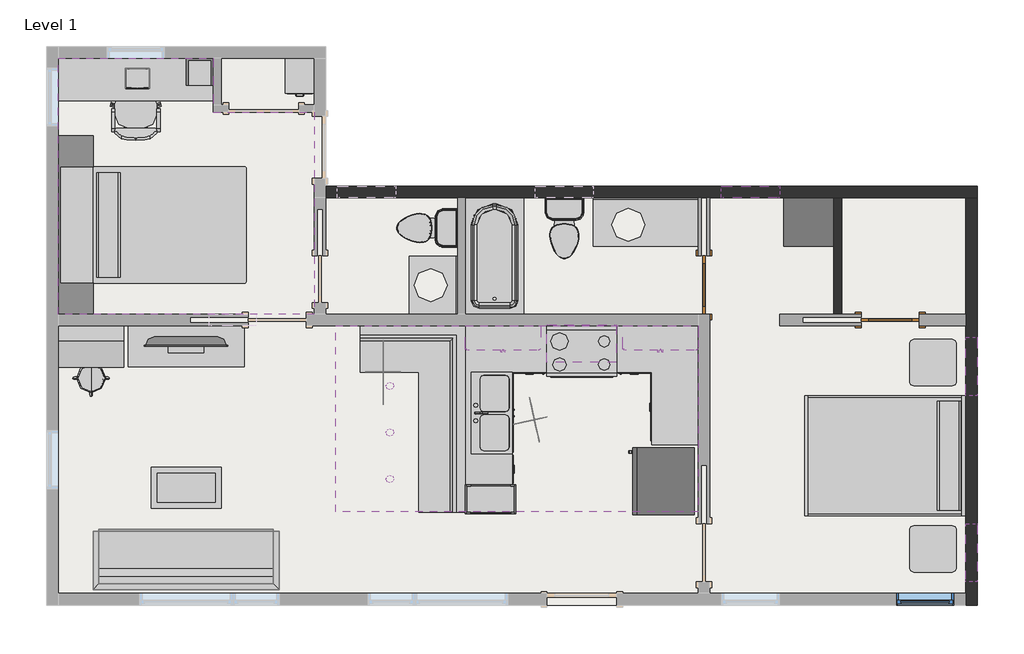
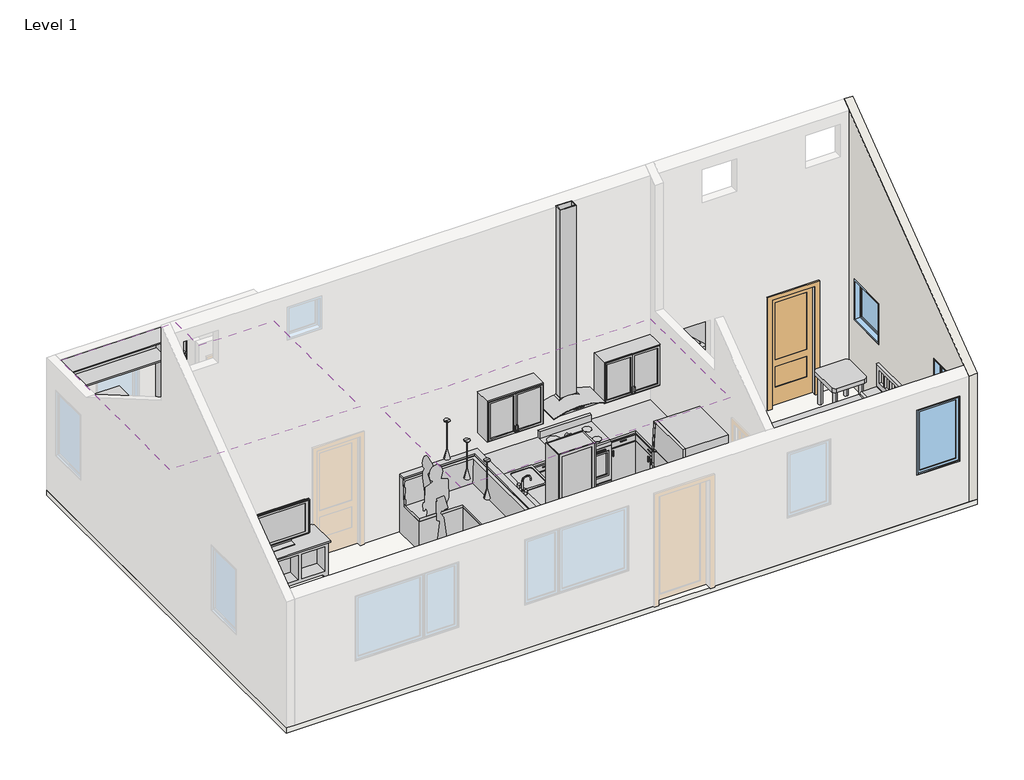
# One storey, part 2 of 2: 27 furniture elements, 6 proxies, 5 flow terminals, 4 windows, 3 light fixtures, 3 walls, 2 coverings, 2 doors, 1 slab.
"""IFC4 building model written with IfcOpenShell, lengths in millimetres."""

from ifc_helpers import new_model, si_unit, frame, origin, origin_with_axes, place, context, project, spatial, polyline, outline, extrude, faceted_brep, transform, mapped, element, save
from components import entourage_4c8cfd20, exhausthood_3375_canopy_range_hood_4b5b32bf, rpc_female_69e001fa, rpc_male_2293c1c2, proxy_28991e61, proxy_93150df1, door_91ac008a, door_421592a3, flow_terminal_a53be723, flow_terminal_9945266a, toilet_domestic_3d_toilet_domestic_3d_f7549cf7, toilet_domestic_3d_toilet_domestic_3d_183bbd19, tub_rectangular_3d_tub_rectangular_3d_d66eddaa, furniture_cfd128db, furniture_6ace90bf, furniture_07bc9410, furniture_ae41e898, furniture_048c9636, furniture_ab3c6687, furniture_b202a70b, furniture_bb55ed6b, chair_executive_chair_executive_8d69e98c, coffee_table_living_room_coffee_table_living_room_ddab133e, couch05_couch05_e9f14d2e, furniture_d6879d98, furniture_905b49e9, dining_booth_l_shape_dining_booth_l_shape_abab4fc1, furniture_b95f40c9, lab_stool_lab_stool_9134c41a, office_built_in_office_built_in_b2bebc89, pantry_cabinet_pantry_cabinet_f1bca42e, furniture_7a3aaa4f, tv_stand_tv_stand_2ccc90d3, furniture_60c3fc03, furniture_249aa2ce, furniture_7e61e6c6, furniture_1a92acab, furniture_0abe6de7, pendant_light_cone_60w_incandescent_225a0564, window_e76804c0, window_def9d500, window_7c4138b5

model = new_model("IFC4")

# Units and contexts
model_context = context("Model", 3, world=origin())
ifc_project = project(units=[si_unit("LENGTHUNIT", "METRE", prefix="MILLI")], contexts=[model_context])

# Site, building, storey
site = spatial("IfcSite", under=ifc_project)
building = spatial("IfcBuilding", under=site)
storey = spatial("IfcBuildingStorey", under=building, Name="Level 1", Elevation=0.0)

# Proxies
placement = place(None, origin())
entourage_shape = entourage_4c8cfd20(model_context)
element("IfcBuildingElementProxy", 1, Name="RPC Notebook Computer : RPC Notebook Computer", ObjectType="RPC Notebook Computer : RPC Notebook Computer", at=placement, inside=storey, context=model_context, shape_type="MappedRepresentation", body=[
    mapped(entourage_shape, transform((-9683.2370155, -1097.0021683, 762.0), x_axis=(1.0, 0.0, 0.0), y_axis=(0.0, 1.0, 0.0), z_axis=(0.0, 0.0, 1.0))),
])
exhausthood_3375_canopy_range_hood_shape = exhausthood_3375_canopy_range_hood_4b5b32bf(model_context)
element("IfcBuildingElementProxy", 2, Name="ExhaustHood_3375 : Canopy Range Hood", ObjectType="ExhaustHood_3375 : Canopy Range Hood", at=placement, inside=storey, context=model_context, shape_type="MappedRepresentation", body=[
    mapped(exhausthood_3375_canopy_range_hood_shape, transform((-3864.0585901, -4360.9021683, 0.0), x_axis=(-1.0, 0.0, 0.0), y_axis=(0.0, -1.0, 0.0), z_axis=(0.0, 0.0, 1.0))),
])
rpc_female_shape = rpc_female_69e001fa(model_context)
element("IfcBuildingElementProxy", 3, Name="RPC Female : Cynthia", ObjectType="RPC Female : Cynthia", at=placement, inside=storey, context=model_context, shape_type="MappedRepresentation", body=[
    mapped(rpc_female_shape, transform((-6465.7533325, -5135.6021683, 0.0), x_axis=(1.0, 0.0, 0.0), y_axis=(0.0, 1.0, 0.0), z_axis=(0.0, 0.0, 1.0))),
])
rpc_male_shape = rpc_male_2293c1c2(model_context)
element("IfcBuildingElementProxy", 4, Name="RPC Male : Alex", ObjectType="RPC Male : Alex", at=placement, inside=storey, context=model_context, shape_type="MappedRepresentation", body=[
    mapped(rpc_male_shape, transform((-4536.7482056, -5614.7941446, 0.0), x_axis=(0.21404454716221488, -0.9768239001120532, 0.0), y_axis=(0.9768239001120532, 0.21404454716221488, 0.0), z_axis=(0.0, 0.0, 1.0))),
])
proxy_shape = proxy_28991e61(model_context)
element("IfcBuildingElementProxy", 5, Name="Range : 30\" x 26\"", ObjectType="Range : 30\" x 26\"", at=placement, inside=storey, context=model_context, shape_type="MappedRepresentation", body=[
    mapped(proxy_shape, transform((-4319.6710901, -5034.0021683, 0.0), x_axis=(1.0, 0.0, 0.0), y_axis=(0.0, 1.0, 0.0), z_axis=(0.0, 0.0, 1.0))),
])
proxy_2_shape = proxy_93150df1(model_context)
element("IfcBuildingElementProxy", 6, Name="Refrigerator : 35\" x 32\" LH", ObjectType="Refrigerator : 35\" x 32\" LH", at=placement, inside=storey, context=model_context, shape_type="MappedRepresentation", body=[
    mapped(proxy_2_shape, transform((-2777.8200616, -6407.2849026, 0.0), x_axis=(0.0, -1.0000000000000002, 0.0), y_axis=(1.0000000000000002, 0.0, 0.0), z_axis=(0.0, 0.0, 1.0))),
])

# Coverings
element("IfcCovering", 7, ObjectType="GWB", at=placement, inside=storey, context=model_context, shape_type="SweptSolid", body=[
    extrude(outline(polyline([(-2338.4710901, -6812.0021683), (-7088.2710901, -6812.0021683), (-7088.2710901, -4373.6021683), (-2338.4710901, -4373.6021683), (-2338.4710901, -6812.0021683)])), frame((0.0, 0.0, 2425.7), z_axis=(0.0, 0.0, 1.0), x_axis=(1.0, 0.0, 0.0)), (0.0, 0.0, 1.0), 12.7),
])
element("IfcCovering", 8, ObjectType="GWB", at=placement, inside=storey, context=model_context, shape_type="SweptSolid", body=[
    extrude(outline(polyline([(-7367.6710901, -4221.2021683), (-10720.4710901, -4221.2021683), (-10720.4710901, -868.4021683), (-8688.4710901, -868.4021683), (-8688.4710901, -1579.6021683), (-7367.6710901, -1579.6021683), (-7367.6710901, -4221.2021683)])), frame((0.0, 0.0, 2454.275), z_axis=(0.0, 0.0, 1.0), x_axis=(1.0, 0.0, 0.0)), (0.0, 0.0, 1.0), 12.7),
])

# Doors
door_shape = door_91ac008a(model_context)
element("IfcDoor", 9, ObjectType="Single-Pocket Door-Two Panel : 30\" x 80\"", at=placement, inside=storey, context=model_context, shape_type="MappedRepresentation", body=[
    mapped(door_shape, transform((176.1289099, -4297.4021683, 0.0), x_axis=(1.0, 0.0, 0.0), y_axis=(0.0, 1.0, 0.0), z_axis=(0.0, 0.0, 1.0))),
])
door_2_shape = door_421592a3(model_context)
element("IfcDoor", 10, ObjectType="Single-Pocket Door-Two Panel : 30\" x 80\"", at=placement, inside=storey, context=model_context, shape_type="MappedRepresentation", body=[
    mapped(door_2_shape, transform((-2262.2710901, -3840.2021683, 0.0), x_axis=(0.0, -1.0, 0.0), y_axis=(1.0, 0.0, 0.0), z_axis=(0.0, 0.0, 1.0))),
])

# Flow terminals
flow_terminal_shape = flow_terminal_a53be723(model_context)
element("IfcFlowTerminal", 11, ObjectType="Sink Kitchen-Double : 42\" x 21\"", at=placement, inside=storey, context=model_context, shape_type="MappedRepresentation", body=[
    mapped(flow_terminal_shape, transform((-5041.225689, -5532.2914088, 0.0), x_axis=(0.0, 1.0000000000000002, 0.0), y_axis=(-1.0000000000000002, 0.0, 0.0), z_axis=(0.0, 0.0, 1.0))),
])
flow_terminal_2_shape = flow_terminal_9945266a(model_context)
element("IfcFlowTerminal", 12, ObjectType="Stacked Washer and Dryer : 26\"x25\" - Private", at=placement, inside=storey, context=model_context, shape_type="MappedRepresentation", body=[
    mapped(flow_terminal_2_shape, transform((-560.4710901, -3014.7021683, 0.0), x_axis=(-1.0000000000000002, 0.0, 0.0), y_axis=(0.0, -1.0000000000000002, 0.0), z_axis=(0.0, 0.0, 1.0))),
])
toilet_domestic_3d_toilet_domestic_3d_shape = toilet_domestic_3d_toilet_domestic_3d_f7549cf7(model_context)
toilet_domestic_3d_toilet_domestic_3d_2_shape = toilet_domestic_3d_toilet_domestic_3d_183bbd19(model_context)
element("IfcFlowTerminal", 13, ObjectType="Toilet-Domestic-3D : Toilet-Domestic-3D", at=placement, inside=storey, context=model_context, shape_type="MappedRepresentation", body=[
    mapped(toilet_domestic_3d_toilet_domestic_3d_shape, transform((-5982.7671175, -3092.8522444, 19.05), x_axis=(0.0, -1.0, 0.0), y_axis=(1.0, 0.0, 0.0), z_axis=(0.0, 0.0, 1.0))),
    mapped(toilet_domestic_3d_toilet_domestic_3d_2_shape, transform((-5982.7671175, -3092.8522444, 19.05), x_axis=(0.0, -1.0, 0.0), y_axis=(1.0, 0.0, 0.0), z_axis=(0.0, 0.0, 1.0))),
])
element("IfcFlowTerminal", 14, ObjectType="Toilet-Domestic-3D : Toilet-Domestic-3D", at=placement, inside=storey, context=model_context, shape_type="MappedRepresentation", body=[
    mapped(toilet_domestic_3d_toilet_domestic_3d_shape, transform((-4091.0710901, -3191.8981956, 0.0), x_axis=(1.0, 0.0, 0.0), y_axis=(0.0, 1.0, 0.0), z_axis=(0.0, 0.0, 1.0))),
    mapped(toilet_domestic_3d_toilet_domestic_3d_2_shape, transform((-4091.0710901, -3191.8981956, 0.0), x_axis=(1.0, 0.0, 0.0), y_axis=(0.0, 1.0, 0.0), z_axis=(0.0, 0.0, 1.0))),
])
tub_rectangular_3d_tub_rectangular_3d_shape = tub_rectangular_3d_tub_rectangular_3d_d66eddaa(model_context)
element("IfcFlowTerminal", 15, ObjectType="Tub-Rectangular-3D : Tub-Rectangular-3D", at=placement, inside=storey, context=model_context, shape_type="MappedRepresentation", body=[
    mapped(tub_rectangular_3d_tub_rectangular_3d_shape, transform((-5437.2710901, -3110.5991996, 0.0), x_axis=(0.0, 1.0, 0.0), y_axis=(-1.0, 0.0, 0.0), z_axis=(0.0, 0.0, 1.0))),
])

# Furniture
furniture_shape = furniture_cfd128db(model_context)
element("IfcFurniture", 16, ObjectType="Rhonda's Desk : Rhonda's Desk", at=placement, inside=storey, context=model_context, shape_type="MappedRepresentation", body=[
    mapped(furniture_shape, transform((-10288.6710901, -4373.6021683, 0.0), x_axis=(1.0, 0.0, 0.0), y_axis=(0.0, 1.0, 0.0), z_axis=(0.0, 0.0, 1.0))),
])
furniture_2_shape = furniture_6ace90bf(model_context)
element("IfcFurniture", 17, ObjectType="Base Cabinet-Single Door & Drawer : 18\"", at=placement, inside=storey, context=model_context, shape_type="MappedRepresentation", body=[
    mapped(furniture_2_shape, transform((-4567.008795, -4373.6021683, 0.0), x_axis=(1.0, 0.0, 0.0), y_axis=(0.0, 1.0, 0.0), z_axis=(0.0, 0.0, 1.0))),
])
furniture_3_shape = furniture_07bc9410(model_context)
element("IfcFurniture", 18, ObjectType="Base Cabinet-Single Door & Drawer : 18\"", at=placement, inside=storey, context=model_context, shape_type="MappedRepresentation", body=[
    mapped(furniture_3_shape, transform((-3157.9333852, -4373.6021683, 0.0), x_axis=(-1.0, 0.0, 0.0), y_axis=(0.0, -1.0, 0.0), z_axis=(0.0, 0.0, 1.0))),
])
furniture_4_shape = furniture_ae41e898(model_context)
element("IfcFurniture", 19, ObjectType="Base Cabinet-Double Door & 1 Drawer : 36\"", at=placement, inside=storey, context=model_context, shape_type="MappedRepresentation", body=[
    mapped(furniture_4_shape, transform((-2338.4710901, -5421.6644633, 0.0), x_axis=(0.0, -1.0000000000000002, 0.0), y_axis=(1.0000000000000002, 0.0, 0.0), z_axis=(0.0, 0.0, 1.0))),
])
furniture_5_shape = furniture_048c9636(model_context)
element("IfcFurniture", 20, ObjectType="Base Cabinet-4 Drawers : 16\"", at=placement, inside=storey, context=model_context, shape_type="MappedRepresentation", body=[
    mapped(furniture_5_shape, transform((-5380.1210901, -6271.9398732, 0.0), x_axis=(0.0, 1.0000000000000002, 0.0), y_axis=(-1.0000000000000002, 0.0, 0.0), z_axis=(0.0, 0.0, 1.0))),
])
furniture_6_shape = furniture_ab3c6687(model_context)
element("IfcFurniture", 21, ObjectType="Base Cabinet-Double Door Sink Unit : 42\"", at=placement, inside=storey, context=model_context, shape_type="MappedRepresentation", body=[
    mapped(furniture_6_shape, transform((-5380.1210901, -5535.3398732, 0.0), x_axis=(0.0, 1.0000000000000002, 0.0), y_axis=(-1.0000000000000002, 0.0, 0.0), z_axis=(0.0, 0.0, 1.0))),
])
furniture_7_shape = furniture_b202a70b(model_context)
element("IfcFurniture", 22, ObjectType="Bed-Shaker : Queen 62\" x 83\"", at=placement, inside=storey, context=model_context, shape_type="MappedRepresentation", body=[
    mapped(furniture_7_shape, transform((1166.7289099, -6056.3521683, 0.0), x_axis=(0.0, 1.0, 0.0), y_axis=(-1.0000000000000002, 0.0, 0.0), z_axis=(0.0, 0.0, 1.0000000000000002))),
])
furniture_8_shape = furniture_bb55ed6b(model_context)
element("IfcFurniture", 23, ObjectType="Cabinet-File 2 Drawer : 15\" x 18\"", at=placement, inside=storey, context=model_context, shape_type="MappedRepresentation", body=[
    mapped(furniture_8_shape, transform((-10402.0746431, -954.8678681, 0.0), x_axis=(1.0, 0.0, 0.0), y_axis=(0.0, 1.0, 0.0), z_axis=(0.0, 0.0, 1.0))),
])
element("IfcFurniture", 24, ObjectType="Cabinet-File 2 Drawer : 15\" x 18\"", at=placement, inside=storey, context=model_context, shape_type="MappedRepresentation", body=[
    mapped(furniture_8_shape, transform((-7430.2746431, -954.8678681, 0.0), x_axis=(1.0, 0.0, 0.0), y_axis=(0.0, 1.0, 0.0), z_axis=(0.0, 0.0, 1.0))),
])
chair_executive_chair_executive_shape = chair_executive_chair_executive_8d69e98c(model_context)
element("IfcFurniture", 25, ObjectType="Chair-Executive : Chair-Executive", at=placement, inside=storey, context=model_context, shape_type="MappedRepresentation", body=[
    mapped(chair_executive_chair_executive_shape, transform((-9845.4619098, -1598.5480699, 0.0), x_axis=(1.0, 0.0, 0.0), y_axis=(0.0, 1.0, 0.0), z_axis=(0.0, 0.0, 1.0))),
])
coffee_table_living_room_coffee_table_living_room_shape = coffee_table_living_room_coffee_table_living_room_ddab133e(model_context)
element("IfcFurniture", 26, ObjectType="Coffee_Table-Living_Room : Coffee_Table-Living_Room", at=placement, inside=storey, context=model_context, shape_type="MappedRepresentation", body=[
    mapped(coffee_table_living_room_coffee_table_living_room_shape, transform((-9044.0710901, -6227.8021683, 0.0), x_axis=(1.0, 0.0, 0.0), y_axis=(0.0, 1.0, 0.0), z_axis=(0.0, 0.0, 1.0))),
])
couch05_couch05_shape = couch05_couch05_e9f14d2e(model_context)
element("IfcFurniture", 27, ObjectType="Couch05 : Couch05", at=placement, inside=storey, context=model_context, shape_type="MappedRepresentation", body=[
    mapped(couch05_couch05_shape, transform((-9044.0710901, -7828.0021683, 0.0), x_axis=(0.0, 1.0000000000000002, 0.0), y_axis=(-1.0000000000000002, 0.0, 0.0), z_axis=(0.0, 0.0, 1.0))),
])
furniture_9_shape = furniture_d6879d98(model_context)
element("IfcFurniture", 28, ObjectType="Counter_Top-L Shaped_No_Splash : 24\" Depth", at=placement, inside=storey, context=model_context, shape_type="MappedRepresentation", body=[
    mapped(furniture_9_shape, transform((-2338.4710901, -5574.0644633, 0.0), x_axis=(0.0, -1.0000000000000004, 0.0), y_axis=(1.0000000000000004, 0.0, 0.0), z_axis=(0.0, 0.0, 1.0))),
])
furniture_10_shape = furniture_905b49e9(model_context)
element("IfcFurniture", 29, ObjectType="Counter_Top-L Shaped_No_Splash : 24\" Depth", at=placement, inside=storey, context=model_context, shape_type="MappedRepresentation", body=[
    mapped(furniture_10_shape, transform((-5386.4710901, -5574.0644633, 0.0), x_axis=(0.0, -1.0000000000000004, 0.0), y_axis=(1.0000000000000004, 0.0, 0.0), z_axis=(0.0, 0.0, 1.0))),
])
dining_booth_l_shape_dining_booth_l_shape_shape = dining_booth_l_shape_dining_booth_l_shape_abab4fc1(model_context)
element("IfcFurniture", 30, ObjectType="Dining_Booth-L_Shape : Dining_Booth-L_Shape", at=placement, inside=storey, context=model_context, shape_type="MappedRepresentation", body=[
    mapped(dining_booth_l_shape_dining_booth_l_shape_shape, transform((-5386.4710901, -4373.6021683, 0.0), x_axis=(1.0, 0.0, 0.0), y_axis=(0.0, 1.0, 0.0), z_axis=(0.0, 0.0, 1.0))),
])
furniture_11_shape = furniture_b95f40c9(model_context)
element("IfcFurniture", 31, ObjectType="Bed-Murphy_Standard : Double 54\" x 75\"", at=placement, inside=storey, context=model_context, shape_type="MappedRepresentation", body=[
    mapped(furniture_11_shape, transform((-9305.5661721, -3324.2906929, 0.0), x_axis=(0.0, 1.0, 0.0), y_axis=(-1.0, 0.0, 0.0), z_axis=(0.0, 0.0, 1.0))),
])
lab_stool_lab_stool_shape = lab_stool_lab_stool_9134c41a(model_context)
element("IfcFurniture", 32, ObjectType="Lab Stool : Lab Stool", at=placement, inside=storey, context=model_context, shape_type="MappedRepresentation", body=[
    mapped(lab_stool_lab_stool_shape, transform((-10288.6710901, -5059.4021683, 0.0), x_axis=(1.0, 0.0, 0.0), y_axis=(0.0, 1.0, 0.0), z_axis=(0.0, 0.0, 1.0))),
])
office_built_in_office_built_in_shape = office_built_in_office_built_in_b2bebc89(model_context)
element("IfcFurniture", 33, ObjectType="Office-Built_In : Office-Built_In", at=placement, inside=storey, context=model_context, shape_type="MappedRepresentation", body=[
    mapped(office_built_in_office_built_in_shape, transform((-10129.608795, -817.6021683, 0.0), x_axis=(1.0, 0.0, 0.0), y_axis=(0.0, 1.0, 0.0), z_axis=(0.0, 0.0, 1.0))),
])
pantry_cabinet_pantry_cabinet_shape = pantry_cabinet_pantry_cabinet_f1bca42e(model_context)
element("IfcFurniture", 34, ObjectType="Pantry_Cabinet : Pantry_Cabinet", at=placement, inside=storey, context=model_context, shape_type="MappedRepresentation", body=[
    mapped(pantry_cabinet_pantry_cabinet_shape, transform((-4795.608795, -6202.4021683, 0.0), x_axis=(1.0, 0.0, 0.0), y_axis=(0.0, 1.0, 0.0), z_axis=(0.0, 0.0, 1.0))),
])
furniture_12_shape = furniture_7a3aaa4f(model_context)
element("IfcFurniture", 35, ObjectType="TV - Flat Screen : 42\"", at=placement, inside=storey, context=model_context, shape_type="MappedRepresentation", body=[
    mapped(furniture_12_shape, transform((-9040.126576, -4573.8407919, 685.8), x_axis=(1.0000000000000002, 0.0, 0.0), y_axis=(0.0, 1.0000000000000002, 0.0), z_axis=(0.0, 0.0, 1.0))),
])
tv_stand_tv_stand_shape = tv_stand_tv_stand_2ccc90d3(model_context)
element("IfcFurniture", 36, ObjectType="TV_Stand : TV_Stand", at=placement, inside=storey, context=model_context, shape_type="MappedRepresentation", body=[
    mapped(tv_stand_tv_stand_shape, transform((-9044.0710901, -4640.3021683, 0.0), x_axis=(1.0, 0.0, 0.0), y_axis=(0.0, 1.0, 0.0), z_axis=(0.0, 0.0, 1.0))),
])
furniture_13_shape = furniture_60c3fc03(model_context)
element("IfcFurniture", 37, ObjectType="Table-End : 24\" x 24\"", at=placement, inside=storey, context=model_context, shape_type="MappedRepresentation", body=[
    mapped(furniture_13_shape, transform((890.5039099, -6986.068538, 0.0), x_axis=(0.0, -1.0, 0.0), y_axis=(1.0000000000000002, 0.0, 0.0), z_axis=(0.0, 0.0, 1.0000000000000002))),
])
element("IfcFurniture", 38, ObjectType="Table-End : 24\" x 24\"", at=placement, inside=storey, context=model_context, shape_type="MappedRepresentation", body=[
    mapped(furniture_13_shape, transform((890.5039099, -4547.668538, 0.0), x_axis=(0.0, -1.0, 0.0), y_axis=(1.0000000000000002, 0.0, 0.0), z_axis=(0.0, 0.0, 1.0000000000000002))),
])
furniture_14_shape = furniture_249aa2ce(model_context)
element("IfcFurniture", 39, ObjectType="Upper Cabinet-Double Door w Glass-Wall : 39\"", at=placement, inside=storey, context=model_context, shape_type="MappedRepresentation", body=[
    mapped(furniture_14_shape, transform((-4864.5749273, -4297.4021683, 0.0), x_axis=(-1.0, 0.0, 0.0), y_axis=(0.0, -1.0, 0.0), z_axis=(0.0, 0.0, 1.0))),
])
furniture_15_shape = furniture_7e61e6c6(model_context)
element("IfcFurniture", 40, ObjectType="Upper Cabinet-Double Door w Glass-Wall : 39\"", at=placement, inside=storey, context=model_context, shape_type="MappedRepresentation", body=[
    mapped(furniture_15_shape, transform((-2863.5422529, -4297.4021683, 0.0), x_axis=(1.0, 0.0, 0.0), y_axis=(0.0, 1.0, 0.0), z_axis=(0.0, 0.0, 1.0))),
])
furniture_16_shape = furniture_1a92acab(model_context)
element("IfcFurniture", 41, ObjectType="Vanity Counter Top w Round Sink Hole : 24\" Depth", at=placement, inside=storey, context=model_context, shape_type="MappedRepresentation", body=[
    mapped(furniture_16_shape, transform((-5488.0710901, -2893.7398732, 25.4), x_axis=(0.0, 1.0, 0.0), y_axis=(-1.0, 0.0, 0.0), z_axis=(0.0, 0.0, 1.0))),
])
furniture_17_shape = furniture_0abe6de7(model_context)
element("IfcFurniture", 42, ObjectType="Vanity Counter Top w Round Sink Hole : 24\" Depth", at=placement, inside=storey, context=model_context, shape_type="MappedRepresentation", body=[
    mapped(furniture_17_shape, transform((-2382.608795, -2697.2021683, 0.0), x_axis=(1.0, 0.0, 0.0), y_axis=(0.0, 1.0, 0.0), z_axis=(0.0, 0.0, 1.0))),
])

# Light fixtures
pendant_light_cone_60w_incandescent_shape = pendant_light_cone_60w_incandescent_225a0564(model_context)
element("IfcLightFixture", 43, ObjectType="Pendant Light - Cone : 60W - Incandescent", at=placement, inside=storey, context=model_context, shape_type="MappedRepresentation", body=[
    mapped(pendant_light_cone_60w_incandescent_shape, transform((-6377.0710901, -5770.6021683, -12.7000062), x_axis=(1.0, 0.0, 0.0), y_axis=(0.0, 1.0, 0.0), z_axis=(0.0, 0.0, 1.0))),
])
element("IfcLightFixture", 44, ObjectType="Pendant Light - Cone : 60W - Incandescent", at=placement, inside=storey, context=model_context, shape_type="MappedRepresentation", body=[
    mapped(pendant_light_cone_60w_incandescent_shape, transform((-6377.0710901, -5161.0021683, -12.7000062), x_axis=(1.0, 0.0, 0.0), y_axis=(0.0, 1.0, 0.0), z_axis=(0.0, 0.0, 1.0))),
])
element("IfcLightFixture", 45, ObjectType="Pendant Light - Cone : 60W - Incandescent", at=placement, inside=storey, context=model_context, shape_type="MappedRepresentation", body=[
    mapped(pendant_light_cone_60w_incandescent_shape, transform((-6377.0710901, -6380.2021683, -12.7000062), x_axis=(1.0, 0.0, 0.0), y_axis=(0.0, 1.0, 0.0), z_axis=(0.0, 0.0, 1.0))),
])

# Slab
element("IfcSlab", 46, ObjectType="Generic - 4\"", at=placement, inside=storey, context=model_context, shape_type="SweptSolid", body=[
    extrude(outline(polyline([(1319.1289099, -8031.2021683), (-10872.8710901, -8031.2021683), (-10872.8710901, -716.0021683), (-7215.2710901, -716.0021683), (-7215.2710901, -2544.8021683), (1319.1289099, -2544.8021683), (1319.1289099, -8031.2021683)])), frame((0.0, 0.0, -101.6), z_axis=(0.0, 0.0, 1.0), x_axis=(1.0, 0.0, 0.0)), (0.0, 0.0, 1.0), 101.6),
])

# Walls
element("IfcWall", 47, ObjectType="Generic - 4\"", at=placement, inside=storey, context=model_context, shape_type="SweptSolid", body=[
    extrude(outline(polyline([(-458.8710901, -2697.2021683), (-458.8710901, -4221.2021683), (-560.4710901, -4221.2021683), (-560.4710901, -2697.2021683), (-458.8710901, -2697.2021683)])), origin_with_axes(), (0.0, 0.0, 1.0), 2438.4),
])
element("IfcWall", 48, ObjectType="Generic - 6\"", at=placement, inside=storey, context=model_context, shape_type="Brep", body=[
    faceted_brep([(-7215.2710901, -2697.2021683, 0.0), (-5488.0710901, -2697.2021683, 0.0), (-5386.4710901, -2697.2021683, 0.0), (-2338.4710901, -2697.2021683, 0.0), (-2300.3710901, -2697.2021683, 0.0), (-2224.1710901, -2697.2021683, 0.0), (-2186.0710901, -2697.2021683, 0.0), (-560.4710901, -2697.2021683, 0.0), (-458.8710901, -2697.2021683, 0.0), (1166.7289099, -2697.2021683, 0.0), (1319.1289099, -2697.2021683, 0.0), (1319.1289099, -2697.2021683, 2912.5333333), (1166.7289099, -2697.2021683, 2912.5333333), (-7215.2710901, -2697.2021683, 2912.5333333), (-6300.8710901, -2697.2021683, 2133.6), (-6300.8710901, -2697.2021683, 1371.6), (-7062.8710901, -2697.2021683, 1371.6), (-7062.8710901, -2697.2021683, 2133.6), (-3710.0710901, -2697.2021683, 2032.0), (-3710.0710901, -2697.2021683, 1270.0), (-4472.0710901, -2697.2021683, 1270.0), (-4472.0710901, -2697.2021683, 2032.0), (-1271.6710901, -2697.2021683, 2032.0), (-1271.6710901, -2697.2021683, 1270.0), (-2033.6710901, -2697.2021683, 1270.0), (-2033.6710901, -2697.2021683, 2032.0), (-7215.2710901, -2544.8021683, 0.0), (-7215.2710901, -2544.8021683, 2823.6333333), (1319.1289099, -2544.8021683, 2823.6333333), (1319.1289099, -2544.8021683, 0.0), (-6300.8710901, -2544.8021683, 2133.6), (-7062.8710901, -2544.8021683, 2133.6), (-7062.8710901, -2544.8021683, 1371.6), (-6300.8710901, -2544.8021683, 1371.6), (-3710.0710901, -2544.8021683, 2032.0), (-4472.0710901, -2544.8021683, 2032.0), (-4472.0710901, -2544.8021683, 1270.0), (-3710.0710901, -2544.8021683, 1270.0), (-1271.6710901, -2544.8021683, 2032.0), (-2033.6710901, -2544.8021683, 2032.0), (-2033.6710901, -2544.8021683, 1270.0), (-1271.6710901, -2544.8021683, 1270.0)], [[[0, 1, 2, 3, 4, 5, 6, 7, 8, 9, 10, 11, 12, 13], [14, 15, 16, 17], [18, 19, 20, 21], [22, 23, 24, 25]], [[26, 27, 28, 29], [30, 31, 32, 33], [34, 35, 36, 37], [38, 39, 40, 41]], [[10, 9, 8, 7, 6, 5, 4, 3, 2, 1, 0, 26, 29]], [[0, 13, 27, 26]], [[11, 10, 29, 28]], [[13, 12, 11, 28, 27]], [[15, 14, 30, 33]], [[16, 15, 33, 32]], [[17, 16, 32, 31]], [[14, 17, 31, 30]], [[19, 18, 34, 37]], [[20, 19, 37, 36]], [[21, 20, 36, 35]], [[18, 21, 35, 34]], [[23, 22, 38, 41]], [[24, 23, 41, 40]], [[25, 24, 40, 39]], [[22, 25, 39, 38]]]),
])
element("IfcWall", 49, ObjectType="Generic - 6\"", at=placement, inside=storey, context=model_context, shape_type="Brep", body=[
    faceted_brep([(1166.7289099, -2697.2021683, 0.0), (1166.7289099, -4221.2021683, 0.0), (1166.7289099, -4373.6021683, 0.0), (1166.7289099, -7878.8021683, 0.0), (1166.7289099, -8031.2021683, 0.0), (1166.7289099, -8031.2021683, 2343.15), (1166.7289099, -7878.8021683, 2457.45), (1166.7289099, -4373.6021683, 5086.35), (1166.7289099, -4221.2021683, 5200.65), (1166.7289099, -4221.2021683, 3801.5333333), (1166.7289099, -2697.2021683, 2912.5333333), (1166.7289099, -7726.4021683, 2032.0), (1166.7289099, -7726.4021683, 1270.0), (1166.7289099, -6964.4021683, 1270.0), (1166.7289099, -6964.4021683, 2032.0), (1166.7289099, -4526.0021683, 2032.0), (1166.7289099, -5288.0021683, 2032.0), (1166.7289099, -5288.0021683, 1270.0), (1166.7289099, -4526.0021683, 1270.0), (1319.1289099, -2697.2021683, 0.0), (1319.1289099, -2697.2021683, 2912.5333333), (1319.1289099, -4221.2021683, 3801.5333333), (1319.1289099, -4221.2021683, 5200.65), (1319.1289099, -8031.2021683, 2343.15), (1319.1289099, -8031.2021683, 0.0), (1319.1289099, -7726.4021683, 2032.0), (1319.1289099, -6964.4021683, 2032.0), (1319.1289099, -6964.4021683, 1270.0), (1319.1289099, -7726.4021683, 1270.0), (1319.1289099, -4526.0021683, 2032.0), (1319.1289099, -4526.0021683, 1270.0), (1319.1289099, -5288.0021683, 1270.0), (1319.1289099, -5288.0021683, 2032.0)], [[[0, 1, 2, 3, 4, 5, 6, 7, 8, 9, 10], [11, 12, 13, 14], [15, 16, 17, 18]], [[19, 20, 21, 22, 23, 24], [25, 26, 27, 28], [29, 30, 31, 32]], [[0, 10, 20, 19]], [[5, 4, 24, 23]], [[4, 3, 2, 1, 0, 19, 24]], [[8, 7, 6, 5, 23, 22]], [[10, 9, 21, 20]], [[9, 8, 22, 21]], [[12, 11, 25, 28]], [[13, 12, 28, 27]], [[14, 13, 27, 26]], [[11, 14, 26, 25]], [[30, 29, 15, 18]], [[31, 30, 18, 17]], [[32, 31, 17, 16]], [[29, 32, 16, 15]]]),
])

# Windows
window_shape = window_e76804c0(model_context)
element("IfcWindow", 50, ObjectType="Fixed : 30\" x 30\"", at=placement, inside=storey, context=model_context, shape_type="MappedRepresentation", body=[
    mapped(window_shape, transform((-1614.5710901, -2621.0021683, 508.0), x_axis=(1.0, 0.0, 0.0), y_axis=(0.0, 1.0, 0.0), z_axis=(0.0, 0.0, 1.0))),
])
element("IfcWindow", 51, ObjectType="Fixed : 30\" x 30\"", at=placement, inside=storey, context=model_context, shape_type="MappedRepresentation", body=[
    mapped(window_shape, transform((1242.9289099, -7383.5021683, 508.0), x_axis=(0.0, -1.0, 0.0), y_axis=(1.0, 0.0, 0.0), z_axis=(0.0, 0.0, 1.0))),
])
window_2_shape = window_def9d500(model_context)
element("IfcWindow", 52, ObjectType="Fixed : 30\" x 30\"", at=placement, inside=storey, context=model_context, shape_type="MappedRepresentation", body=[
    mapped(window_2_shape, transform((1242.9289099, -4868.9021683, 508.0), x_axis=(0.0, 1.0, 0.0), y_axis=(-1.0, 0.0, 0.0), z_axis=(0.0, 0.0, 1.0))),
])
window_3_shape = window_7c4138b5(model_context)
element("IfcWindow", 53, ObjectType="Fixed : 30\" x 48\"", at=placement, inside=storey, context=model_context, shape_type="MappedRepresentation", body=[
    mapped(window_3_shape, transform((595.2289099, -7955.0021683, 50.8), x_axis=(-1.0, 0.0, 0.0), y_axis=(0.0, -1.0, 0.0), z_axis=(0.0, 0.0, 1.0))),
])

save(model, "model.ifc")
